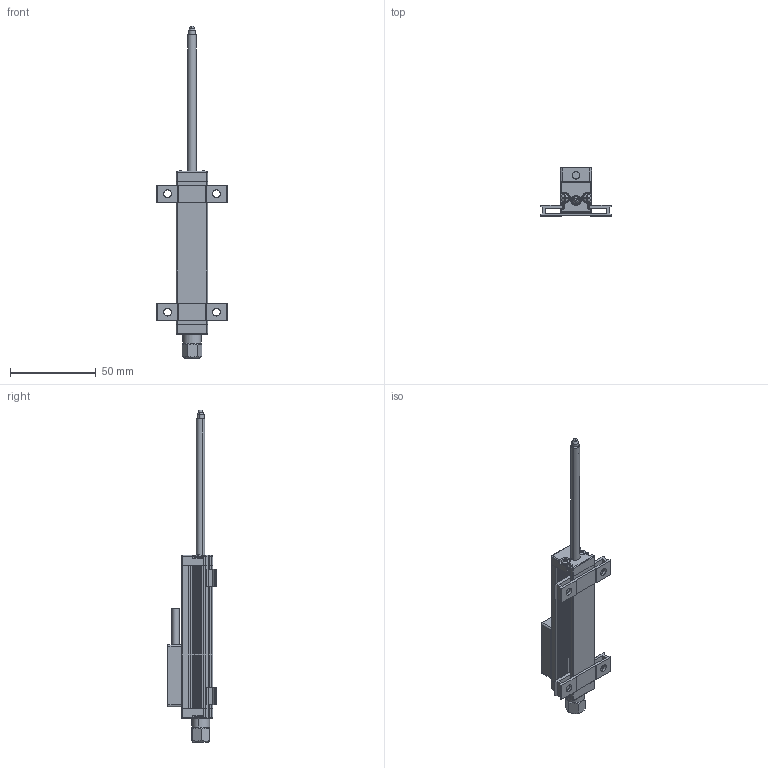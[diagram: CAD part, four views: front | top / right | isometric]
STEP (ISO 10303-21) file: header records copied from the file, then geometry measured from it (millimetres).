
FILE_DESCRIPTION (( 'STEP AP214' ), '1' );
FILE_NAME ('LTR-50 A-V Kablolu.STEP', '2020-12-16T05:24:25', ( '' ), ( '' ), 'SwSTEP 2.0', 'SolidWorks 2014', '' );
FILE_SCHEMA (( 'AUTOMOTIVE_DESIGN' ));
Length unit declared in the file: millimetre
Products named in the file (1): LTR-50 A-V Kablolu
Bounding box: 41 x 28.1 x 193.4 mm (x, y, z)
Surface area: 16296.4 mm2 (no closed solid volume)
Topology: 0 solids, 18 shells, 583 faces, 1756 edges, 1137 vertices
Faces by surface type: cylinder 245, plane 233, cone 43, sphere 34, torus 28
Entity records: 26370 total; most frequent: CARTESIAN_POINT 4933, DIRECTION 3228, ORIENTED_EDGE 2919, EDGE_CURVE 1726, AXIS2_PLACEMENT_3D 1200, VERTEX_POINT 1137, LINE 828, VECTOR 828
